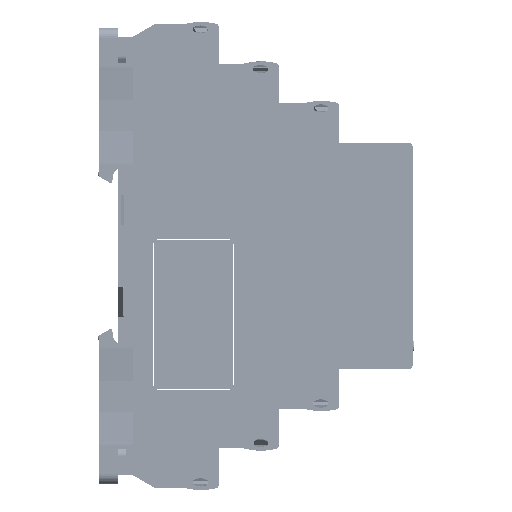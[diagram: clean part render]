
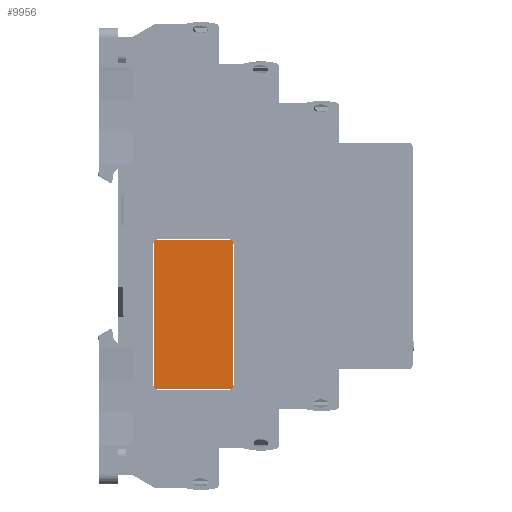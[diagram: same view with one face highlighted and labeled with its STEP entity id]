
A CAD part, front view. The second image highlights one B-rep face of the part: STEP entity #9956.
In plain terms, the highlighted planar face has unit normal (0, -1, 0).
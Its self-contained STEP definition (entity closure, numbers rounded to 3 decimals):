
#9956=ADVANCED_FACE('',(#119887),#119889,.F.);
#119887=FACE_BOUND('',#119888,.T.);
#119888=EDGE_LOOP('',(#200281,#200282,#200283,#200284));
#119889=PLANE('',#119890);
#119890=AXIS2_PLACEMENT_3D('',#119891,#119892,#119893);
#119891=CARTESIAN_POINT('',(0.,0.,0.));
#119892=DIRECTION('',(0.,1.,0.));
#119893=DIRECTION('',(-1.,0.,0.));
#200281=ORIENTED_EDGE('',*,*,#275198,.F.);
#200282=ORIENTED_EDGE('',*,*,#275195,.F.);
#200283=ORIENTED_EDGE('',*,*,#275192,.F.);
#200284=ORIENTED_EDGE('',*,*,#275188,.F.);
#275188=EDGE_CURVE('',#312913,#312914,#312915,.T.);
#275192=EDGE_CURVE('',#312914,#312921,#312922,.T.);
#275195=EDGE_CURVE('',#312921,#312926,#312927,.T.);
#275198=EDGE_CURVE('',#312926,#312913,#312931,.T.);
#312913=VERTEX_POINT('',#392740);
#312914=VERTEX_POINT('',#392741);
#312915=LINE('',#392742,#392743);
#312921=VERTEX_POINT('',#392756);
#312922=LINE('',#392757,#392758);
#312926=VERTEX_POINT('',#392767);
#312927=LINE('',#392768,#392769);
#312931=LINE('',#392778,#392779);
#392740=CARTESIAN_POINT('',(-7.9,0.,14.8));
#392741=CARTESIAN_POINT('',(7.9,0.,14.8));
#392742=CARTESIAN_POINT('',(-7.9,0.,14.8));
#392743=VECTOR('',#392744,1.);
#392744=DIRECTION('',(1.,0.,0.));
#392756=CARTESIAN_POINT('',(7.9,0.,-14.8));
#392757=CARTESIAN_POINT('',(7.9,0.,14.8));
#392758=VECTOR('',#392759,1.);
#392759=DIRECTION('',(0.,0.,-1.));
#392767=CARTESIAN_POINT('',(-7.9,0.,-14.8));
#392768=CARTESIAN_POINT('',(7.9,0.,-14.8));
#392769=VECTOR('',#392770,1.);
#392770=DIRECTION('',(-1.,0.,0.));
#392778=CARTESIAN_POINT('',(-7.9,0.,-14.8));
#392779=VECTOR('',#392780,1.);
#392780=DIRECTION('',(0.,0.,1.));
